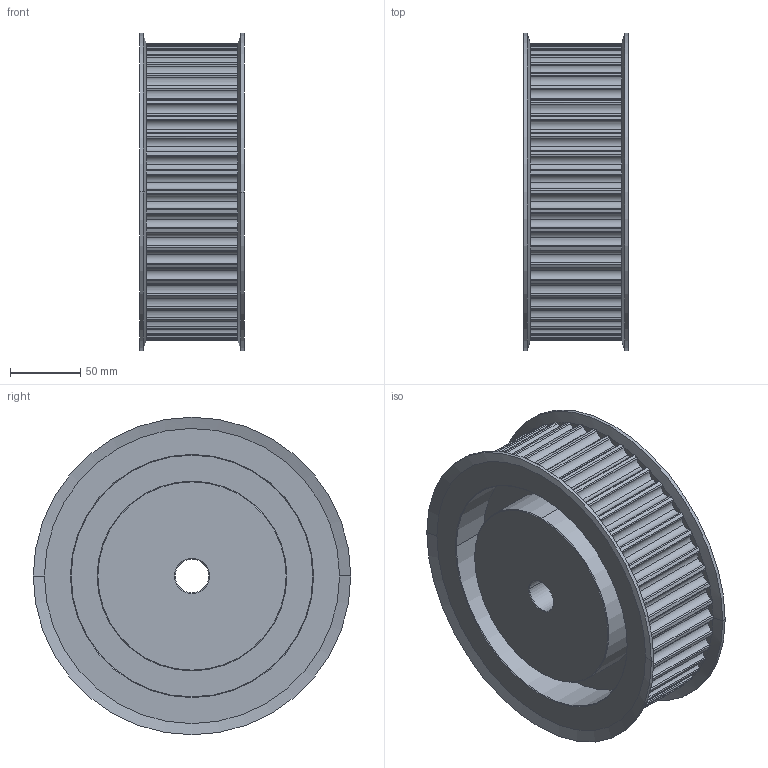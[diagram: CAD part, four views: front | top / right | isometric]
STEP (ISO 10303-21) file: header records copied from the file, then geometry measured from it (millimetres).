
FILE_DESCRIPTION(('STEP AP203'),'1');
FILE_NAME('48_-_14_m_55.stp','2020-07-24T12:50:37',('TraceParts'),('TraceParts S.A.'),'Spatial InterOp 3D',' ',' ');
FILE_SCHEMA(('CONFIG_CONTROL_DESIGN'));
Length unit declared in the file: millimetre
Products named in the file (1): 1
Bounding box: 74.29 x 226 x 226 mm (x, y, z)
Volume: 1831613.2 mm3; surface area: 212817.3 mm2
Topology: 1 solids, 1 shells, 376 faces, 1098 edges, 728 vertices
Faces by surface type: cylinder 254, plane 102, cone 20
Entity records: 13806 total; most frequent: CARTESIAN_POINT 3547, DIRECTION 2292, ORIENTED_EDGE 2196, EDGE_CURVE 1098, AXIS2_PLACEMENT_3D 1009, VERTEX_POINT 728, CIRCLE 632, EDGE_LOOP 382
